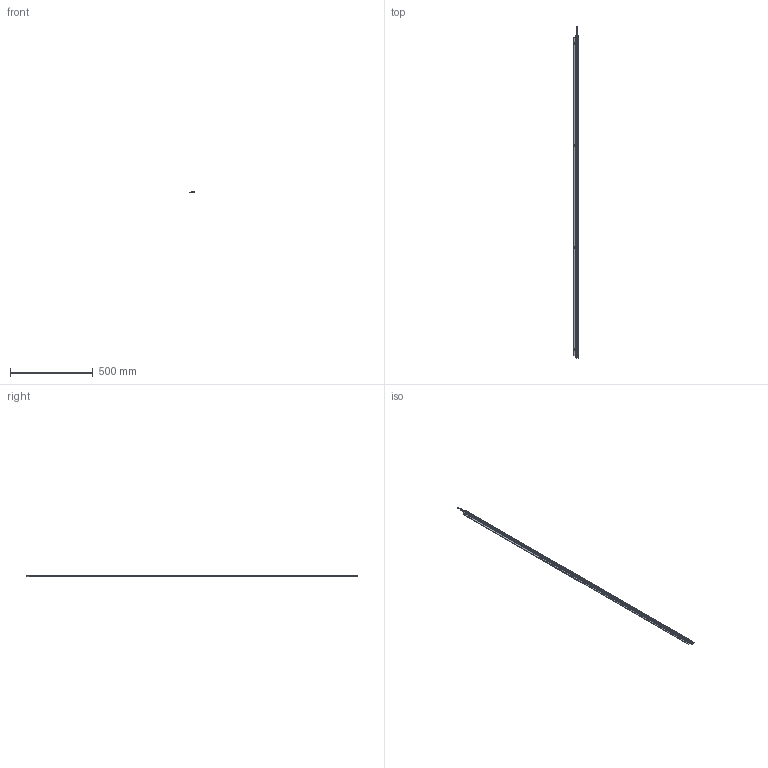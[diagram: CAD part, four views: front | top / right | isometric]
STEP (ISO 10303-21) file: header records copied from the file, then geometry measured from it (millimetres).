
FILE_DESCRIPTION (( 'STEP AP214' ), '1' );
FILE_NAME ('ILGA-L-K2-1950mm.STEP', '2026-04-25T08:27:46', ( '' ), ( '' ), 'SwSTEP 2.0', 'SolidWorks 2025', '' );
FILE_SCHEMA (( 'AUTOMOTIVE_DESIGN' ));
Length unit declared in the file: millimetre
Products named in the file (1): ILGA-L-K2-1950mm
Bounding box: 35 x 2004.5 x 10.7 mm (x, y, z)
Surface area: 302321.6 mm2 (no closed solid volume)
Topology: 0 solids, 13 shells, 931 faces, 2444 edges, 1515 vertices
Faces by surface type: cylinder 380, plane 343, cone 86, bspline 56, torus 50, sphere 16
Entity records: 41246 total; most frequent: CARTESIAN_POINT 8504, ORIENTED_EDGE 4769, DIRECTION 4682, EDGE_CURVE 2392, AXIS2_PLACEMENT_3D 1797, VERTEX_POINT 1515, LINE 1088, VECTOR 1088
